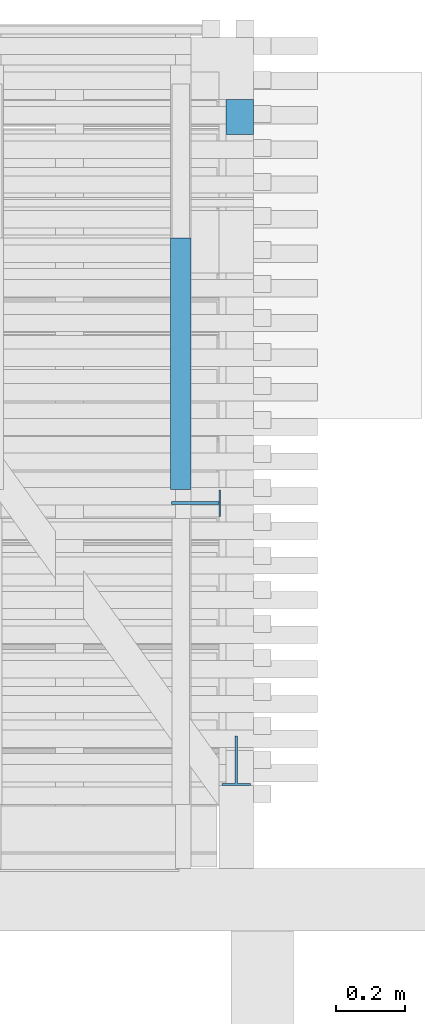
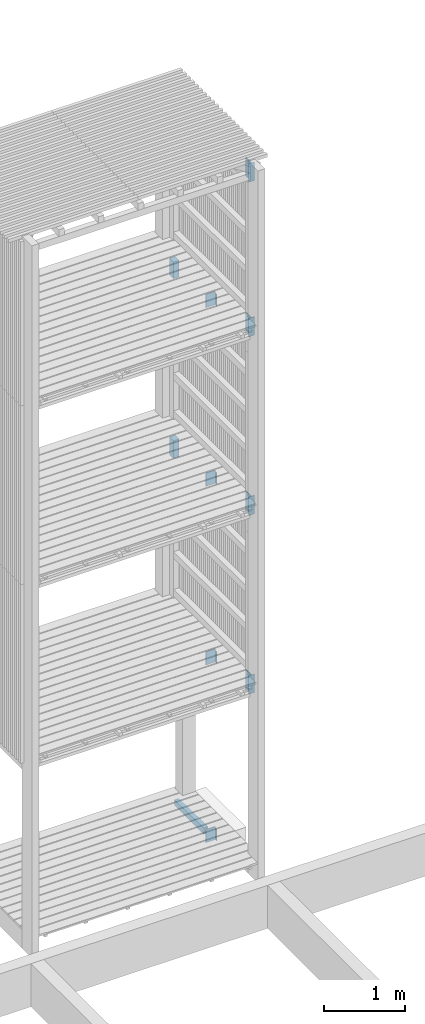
# One storey, part 180 of 182: 11 beams.
"""IFC2X3 building model written with IfcOpenShell, lengths in metres."""

from ifc_helpers import new_model, si_unit, frame, origin, place, context, project, spatial, faceted_brep, element, save


model = new_model("IFC2X3")

# Units and contexts
model_context = context("Model", 3, precision=1e-06, world=origin())
ifc_project = project(units=[si_unit("LENGTHUNIT", "METRE"), si_unit("PLANEANGLEUNIT", "RADIAN")], contexts=[model_context])

# Site, building, storey
site = spatial("IfcSite", under=ifc_project, CompositionType="ELEMENT")
building = spatial("IfcBuilding", under=site, CompositionType="ELEMENT")
storey = spatial("IfcBuildingStorey", under=building, Name="vs", CompositionType="ELEMENT", Elevation=-0.85)

# Beams
placement = place(None, origin())
beam_1_placement = place(placement, frame((36.21899999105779, 11.525077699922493, 7.839999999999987), z_axis=(-1.0, 0.0, 0.0), x_axis=(0.0, 0.0, 1.0)))
element("IfcBeam", 1, at=beam_1_placement, inside=storey, Name="Contre-usinage", context=model_context, shape_type="Brep", body=[
    faceted_brep([(0.200000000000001, 0.003999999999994, -0.065999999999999), (0.200000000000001, -0.004000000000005, -0.065999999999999), (0.175000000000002, -0.004000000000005, -0.065999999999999), (0.175000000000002, 0.003999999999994, -0.065999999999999), (2e-15, 0.003999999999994, -0.065999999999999), (0.175000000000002, 0.003999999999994, -0.065999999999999), (0.175000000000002, 0.037999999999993, -0.065999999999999), (2e-15, 0.037999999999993, -0.065999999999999), (2e-15, -0.038000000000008, -0.065999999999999), (0.175000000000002, -0.038000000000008, -0.065999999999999), (0.175000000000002, -0.004000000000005, -0.065999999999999), (2e-15, -0.004000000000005, -0.065999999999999), (2e-15, -0.004000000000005, 0.071000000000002), (2e-15, -0.004000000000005, -0.065999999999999), (0.175000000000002, -0.004000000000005, -0.065999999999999), (0.200000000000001, -0.004000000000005, -0.065999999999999), (0.200000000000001, -0.004000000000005, 0.071000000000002), (2e-15, 0.003999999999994, 0.071000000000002), (2e-15, -0.004000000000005, 0.071000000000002), (0.200000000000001, -0.004000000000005, 0.071000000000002), (0.200000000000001, 0.003999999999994, 0.071000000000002), (2e-15, 0.037999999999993, -0.071000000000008), (0.175000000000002, 0.037999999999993, -0.071000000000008), (0.175000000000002, -0.038000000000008, -0.071000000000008), (2e-15, -0.038000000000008, -0.071000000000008), (0.175000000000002, -0.038000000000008, -0.071000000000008), (0.175000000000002, 0.037999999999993, -0.071000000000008), (0.175000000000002, 0.037999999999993, -0.065999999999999), (0.175000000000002, 0.003999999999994, -0.065999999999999), (0.175000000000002, -0.004000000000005, -0.065999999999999), (0.175000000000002, -0.038000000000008, -0.065999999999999), (0.200000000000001, 0.003999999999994, -0.065999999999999), (0.175000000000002, 0.003999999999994, -0.065999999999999), (2e-15, 0.003999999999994, -0.065999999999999), (2e-15, 0.003999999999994, 0.071000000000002), (0.200000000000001, 0.003999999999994, 0.071000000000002), (0.200000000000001, 0.003999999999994, 0.071000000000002), (0.200000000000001, -0.004000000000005, 0.071000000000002), (0.200000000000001, -0.004000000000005, -0.065999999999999), (0.200000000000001, 0.003999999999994, -0.065999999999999), (2e-15, 0.037999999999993, -0.065999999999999), (0.175000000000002, 0.037999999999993, -0.065999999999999), (0.175000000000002, 0.037999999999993, -0.071000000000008), (2e-15, 0.037999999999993, -0.071000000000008), (2e-15, 0.037999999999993, -0.071000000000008), (2e-15, -0.038000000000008, -0.071000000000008), (2e-15, -0.038000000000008, -0.065999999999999), (2e-15, -0.004000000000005, -0.065999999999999), (2e-15, -0.004000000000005, 0.071000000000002), (2e-15, 0.003999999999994, 0.071000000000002), (2e-15, 0.003999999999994, -0.065999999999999), (2e-15, 0.037999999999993, -0.065999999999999), (2e-15, -0.038000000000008, -0.065999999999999), (2e-15, -0.038000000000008, -0.071000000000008), (0.175000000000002, -0.038000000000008, -0.071000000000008), (0.175000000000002, -0.038000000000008, -0.065999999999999)], [[[0, 1, 2, 3]], [[4, 5, 6, 7]], [[8, 9, 10, 11]], [[12, 13, 14, 15, 16]], [[17, 18, 19, 20]], [[21, 22, 23, 24]], [[25, 26, 27, 28, 29, 30]], [[31, 32, 33, 34, 35]], [[36, 37, 38, 39]], [[40, 41, 42, 43]], [[44, 45, 46, 47, 48, 49, 50, 51]], [[52, 53, 54, 55]]]),
])
beam_2_placement = place(placement, frame((36.17499999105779, 11.565077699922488, -0.091949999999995), z_axis=(0.0, 0.0, 1.0), x_axis=(0.0, 1.0, 0.0)))
element("IfcBeam", 2, at=beam_2_placement, inside=storey, Name="Solive", context=model_context, shape_type="Brep", body=[
    faceted_brep([(0.0, -0.03, -0.04805), (0.0, 0.030000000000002, -0.04805), (0.725000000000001, 0.030000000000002, -0.04805), (0.725000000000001, -0.03, -0.04805), (0.725000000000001, -0.03, 0.033549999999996), (0.0, -0.03, 0.048049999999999), (0.0, -0.03, -0.04805), (0.725000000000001, -0.03, -0.04805), (0.0, -0.03, 0.048049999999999), (0.725000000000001, -0.03, 0.033549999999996), (0.725000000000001, 0.030000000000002, 0.033549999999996), (0.0, 0.030000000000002, 0.048049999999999), (0.0, -0.03, 0.048049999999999), (0.0, 0.030000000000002, 0.048049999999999), (0.0, 0.030000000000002, -0.04805), (0.0, -0.03, -0.04805), (0.0, 0.030000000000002, -0.04805), (0.0, 0.030000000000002, 0.048049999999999), (0.725000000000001, 0.030000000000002, 0.033549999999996), (0.725000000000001, 0.030000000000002, -0.04805), (0.725000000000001, -0.03, 0.033549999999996), (0.725000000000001, -0.03, -0.04805), (0.725000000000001, 0.030000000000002, -0.04805), (0.725000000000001, 0.030000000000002, 0.033549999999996)], [[[0, 1, 2, 3]], [[4, 5, 6, 7]], [[8, 9, 10, 11]], [[12, 13, 14, 15]], [[16, 17, 18, 19]], [[20, 21, 22, 23]]]),
])
beam_3_placement = place(placement, frame((36.21899999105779, 11.525077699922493, -0.243899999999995), z_axis=(-1.0, 0.0, 0.0), x_axis=(0.0, 0.0, 1.0)))
element("IfcBeam", 3, at=beam_3_placement, inside=storey, Name="Contre-usinage", context=model_context, shape_type="Brep", body=[
    faceted_brep([(0.2, 0.003999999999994, -0.065999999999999), (0.2, -0.004000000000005, -0.065999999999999), (0.175, -0.004000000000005, -0.065999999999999), (0.175, 0.003999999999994, -0.065999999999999), (0.0, 0.003999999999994, -0.065999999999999), (0.175, 0.003999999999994, -0.065999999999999), (0.175, 0.037999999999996, -0.065999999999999), (0.0, 0.037999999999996, -0.065999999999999), (0.0, -0.038000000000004, -0.065999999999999), (0.175, -0.038000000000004, -0.065999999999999), (0.175, -0.004000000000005, -0.065999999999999), (0.0, -0.004000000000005, -0.065999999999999), (0.0, -0.004000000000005, 0.071000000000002), (0.0, -0.004000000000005, -0.065999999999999), (0.175, -0.004000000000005, -0.065999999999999), (0.2, -0.004000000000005, -0.065999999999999), (0.2, -0.004000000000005, 0.071000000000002), (0.0, 0.003999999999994, 0.071000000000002), (0.0, -0.004000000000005, 0.071000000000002), (0.2, -0.004000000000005, 0.071000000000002), (0.2, 0.003999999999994, 0.071000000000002), (0.0, 0.037999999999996, -0.071000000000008), (0.175, 0.037999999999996, -0.071000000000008), (0.175, -0.038000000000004, -0.071000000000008), (0.0, -0.038000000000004, -0.071000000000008), (0.2, 0.003999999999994, 0.071000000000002), (0.2, -0.004000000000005, 0.071000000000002), (0.2, -0.004000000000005, -0.065999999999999), (0.2, 0.003999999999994, -0.065999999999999), (0.2, 0.003999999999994, -0.065999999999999), (0.175, 0.003999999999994, -0.065999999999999), (0.0, 0.003999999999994, -0.065999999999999), (0.0, 0.003999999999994, 0.071000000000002), (0.2, 0.003999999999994, 0.071000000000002), (0.175, -0.038000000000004, -0.071000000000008), (0.175, 0.037999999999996, -0.071000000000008), (0.175, 0.037999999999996, -0.065999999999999), (0.175, 0.003999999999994, -0.065999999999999), (0.175, -0.004000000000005, -0.065999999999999), (0.175, -0.038000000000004, -0.065999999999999), (0.0, 0.037999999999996, -0.071000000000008), (0.0, -0.038000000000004, -0.071000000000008), (0.0, -0.038000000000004, -0.065999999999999), (0.0, -0.004000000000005, -0.065999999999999), (0.0, -0.004000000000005, 0.071000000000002), (0.0, 0.003999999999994, 0.071000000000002), (0.0, 0.003999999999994, -0.065999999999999), (0.0, 0.037999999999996, -0.065999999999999), (0.0, 0.037999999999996, -0.071000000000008), (0.0, 0.037999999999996, -0.065999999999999), (0.175, 0.037999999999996, -0.065999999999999), (0.175, 0.037999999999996, -0.071000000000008), (0.0, -0.038000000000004, -0.065999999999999), (0.0, -0.038000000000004, -0.071000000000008), (0.175, -0.038000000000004, -0.071000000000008), (0.175, -0.038000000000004, -0.065999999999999)], [[[0, 1, 2, 3]], [[4, 5, 6, 7]], [[8, 9, 10, 11]], [[12, 13, 14, 15, 16]], [[17, 18, 19, 20]], [[21, 22, 23, 24]], [[25, 26, 27, 28]], [[29, 30, 31, 32, 33]], [[34, 35, 36, 37, 38, 39]], [[40, 41, 42, 43, 44, 45, 46, 47]], [[48, 49, 50, 51]], [[52, 53, 54, 55]]]),
])
beam_4_placement = place(placement, frame((36.344999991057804, 12.640077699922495, 4.85796194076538), z_axis=(0.0, -1.0, 0.0), x_axis=(0.0, 0.0, 1.0)))
element("IfcBeam", 4, at=beam_4_placement, inside=storey, Name="Support bardage", context=model_context, shape_type="Brep", body=[
    faceted_brep([(0.267038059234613, -0.039999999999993, -0.05), (0.267038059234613, 0.04000000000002, -0.05), (0.267038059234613, 0.04000000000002, 0.050000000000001), (0.267038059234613, -0.039999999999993, 0.050000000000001), (0.267038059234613, -0.039999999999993, -0.05), (0.267038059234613, -0.039999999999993, 0.050000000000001), (0.0, -0.039999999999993, 0.050000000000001), (0.0, -0.039999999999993, -0.05), (0.267038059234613, 0.04000000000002, -0.05), (0.267038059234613, -0.039999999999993, -0.05), (0.0, -0.039999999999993, -0.05), (0.0, 0.04000000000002, -0.05), (0.0, -0.039999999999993, 0.050000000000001), (0.267038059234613, -0.039999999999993, 0.050000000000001), (0.267038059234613, 0.04000000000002, 0.050000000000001), (0.0, 0.04000000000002, 0.050000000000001), (0.0, 0.04000000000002, 0.050000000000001), (0.267038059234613, 0.04000000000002, 0.050000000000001), (0.267038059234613, 0.04000000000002, -0.05), (0.0, 0.04000000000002, -0.05), (0.0, -0.039999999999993, 0.050000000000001), (0.0, 0.04000000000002, 0.050000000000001), (0.0, 0.04000000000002, -0.05), (0.0, -0.039999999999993, -0.05)], [[[0, 1, 2, 3]], [[4, 5, 6, 7]], [[8, 9, 10, 11]], [[12, 13, 14, 15]], [[16, 17, 18, 19]], [[20, 21, 22, 23]]]),
])
beam_5_placement = place(placement, frame((36.29399999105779, 10.781077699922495, 2.579999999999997), z_axis=(0.0, 0.0, 1.0), x_axis=(1.0, 0.0, 0.0)))
element("IfcBeam", 5, at=beam_5_placement, inside=storey, Name="Contre-usinage", context=model_context, shape_type="Brep", body=[
    faceted_brep([(0.037000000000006, -0.065999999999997, -0.14), (0.037000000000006, 0.071, -0.14), (0.045000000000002, 0.071, -0.14), (0.045000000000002, -0.065999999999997, -0.14), (0.082000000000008, -0.066000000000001, -0.14), (0.082000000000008, -0.071, -0.14), (0.0, -0.071, -0.14), (0.0, -0.066000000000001, -0.14), (0.045000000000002, 0.071, -0.14), (0.037000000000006, 0.071, -0.14), (0.037000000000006, 0.071, 0.14), (0.045000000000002, 0.071, 0.14), (0.045000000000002, -0.066000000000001, 0.14), (0.045000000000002, -0.065999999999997, -0.14), (0.045000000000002, 0.071, -0.14), (0.045000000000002, 0.071, 0.14), (0.082000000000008, -0.066000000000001, -0.14), (0.045000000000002, -0.065999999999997, -0.14), (0.045000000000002, -0.066000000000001, 0.14), (0.082000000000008, -0.066000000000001, 0.14), (0.082000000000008, -0.071, -0.14), (0.082000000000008, -0.066000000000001, -0.14), (0.082000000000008, -0.066000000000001, 0.14), (0.082000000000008, -0.071, 0.14), (0.0, -0.071, -0.14), (0.082000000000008, -0.071, -0.14), (0.082000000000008, -0.071, 0.14), (0.0, -0.071, 0.14), (0.0, -0.066000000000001, -0.14), (0.0, -0.071, -0.14), (0.0, -0.071, 0.14), (0.0, -0.066000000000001, 0.14), (0.037000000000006, -0.065999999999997, -0.14), (0.0, -0.066000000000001, -0.14), (0.0, -0.066000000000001, 0.14), (0.037000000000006, -0.066000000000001, 0.14), (0.037000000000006, 0.071, 0.14), (0.037000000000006, 0.071, -0.14), (0.037000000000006, -0.065999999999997, -0.14), (0.037000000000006, -0.066000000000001, 0.14), (0.082000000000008, -0.066000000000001, 0.14), (0.045000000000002, -0.066000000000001, 0.14), (0.045000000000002, 0.071, 0.14), (0.037000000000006, 0.071, 0.14), (0.037000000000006, -0.066000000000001, 0.14), (0.0, -0.066000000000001, 0.14), (0.0, -0.071, 0.14), (0.082000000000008, -0.071, 0.14)], [[[0, 1, 2, 3, 4, 5, 6, 7]], [[8, 9, 10, 11]], [[12, 13, 14, 15]], [[16, 17, 18, 19]], [[20, 21, 22, 23]], [[24, 25, 26, 27]], [[28, 29, 30, 31]], [[32, 33, 34, 35]], [[36, 37, 38, 39]], [[40, 41, 42, 43, 44, 45, 46, 47]]]),
])
beam_6_placement = place(placement, frame((36.21899999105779, 11.525077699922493, 2.439999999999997), z_axis=(-1.0, 0.0, 0.0), x_axis=(0.0, 0.0, 1.0)))
element("IfcBeam", 6, at=beam_6_placement, inside=storey, Name="Contre-usinage", context=model_context, shape_type="Brep", body=[
    faceted_brep([(0.2, 0.003999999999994, -0.065999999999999), (0.2, -0.004000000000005, -0.065999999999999), (0.175, -0.004000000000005, -0.065999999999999), (0.175, 0.003999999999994, -0.065999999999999), (0.0, 0.003999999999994, -0.065999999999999), (0.175, 0.003999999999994, -0.065999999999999), (0.175, 0.037999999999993, -0.065999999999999), (0.0, 0.037999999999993, -0.065999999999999), (0.0, -0.038000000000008, -0.065999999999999), (0.175, -0.038000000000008, -0.065999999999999), (0.175, -0.004000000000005, -0.065999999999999), (0.0, -0.004000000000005, -0.065999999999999), (0.0, -0.004000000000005, 0.071000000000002), (0.0, -0.004000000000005, -0.065999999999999), (0.175, -0.004000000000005, -0.065999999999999), (0.2, -0.004000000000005, -0.065999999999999), (0.2, -0.004000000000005, 0.071000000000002), (0.0, 0.003999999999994, 0.071000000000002), (0.0, -0.004000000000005, 0.071000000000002), (0.2, -0.004000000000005, 0.071000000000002), (0.2, 0.003999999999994, 0.071000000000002), (0.0, 0.037999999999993, -0.070999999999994), (0.175, 0.037999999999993, -0.070999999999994), (0.175, -0.038000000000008, -0.070999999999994), (0.0, -0.038000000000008, -0.070999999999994), (0.175, -0.038000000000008, -0.070999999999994), (0.175, 0.037999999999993, -0.070999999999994), (0.175, 0.037999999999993, -0.065999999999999), (0.175, 0.003999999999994, -0.065999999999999), (0.175, -0.004000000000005, -0.065999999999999), (0.175, -0.038000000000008, -0.065999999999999), (0.2, 0.003999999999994, -0.065999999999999), (0.175, 0.003999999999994, -0.065999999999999), (0.0, 0.003999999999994, -0.065999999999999), (0.0, 0.003999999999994, 0.071000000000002), (0.2, 0.003999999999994, 0.071000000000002), (0.2, 0.003999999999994, 0.071000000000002), (0.2, -0.004000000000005, 0.071000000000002), (0.2, -0.004000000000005, -0.065999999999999), (0.2, 0.003999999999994, -0.065999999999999), (0.0, 0.037999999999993, -0.065999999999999), (0.175, 0.037999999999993, -0.065999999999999), (0.175, 0.037999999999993, -0.070999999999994), (0.0, 0.037999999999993, -0.070999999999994), (0.0, 0.037999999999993, -0.070999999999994), (0.0, -0.038000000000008, -0.070999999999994), (0.0, -0.038000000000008, -0.065999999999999), (0.0, -0.004000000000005, -0.065999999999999), (0.0, -0.004000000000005, 0.071000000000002), (0.0, 0.003999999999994, 0.071000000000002), (0.0, 0.003999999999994, -0.065999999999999), (0.0, 0.037999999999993, -0.065999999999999), (0.0, -0.038000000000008, -0.065999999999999), (0.0, -0.038000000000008, -0.070999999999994), (0.175, -0.038000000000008, -0.070999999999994), (0.175, -0.038000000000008, -0.065999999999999)], [[[0, 1, 2, 3]], [[4, 5, 6, 7]], [[8, 9, 10, 11]], [[12, 13, 14, 15, 16]], [[17, 18, 19, 20]], [[21, 22, 23, 24]], [[25, 26, 27, 28, 29, 30]], [[31, 32, 33, 34, 35]], [[36, 37, 38, 39]], [[40, 41, 42, 43]], [[44, 45, 46, 47, 48, 49, 50, 51]], [[52, 53, 54, 55]]]),
])
beam_7_placement = place(placement, frame((36.29399999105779, 10.781077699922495, 7.979999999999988), z_axis=(0.0, 0.0, 1.0), x_axis=(1.0, 0.0, 0.0)))
element("IfcBeam", 7, at=beam_7_placement, inside=storey, Name="Contre-usinage", context=model_context, shape_type="Brep", body=[
    faceted_brep([(0.037000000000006, -0.065999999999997, -0.14), (0.037000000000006, 0.071, -0.14), (0.045000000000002, 0.071, -0.14), (0.045000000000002, -0.065999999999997, -0.14), (0.082000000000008, -0.066000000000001, -0.14), (0.082000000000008, -0.071, -0.14), (0.0, -0.071, -0.14), (0.0, -0.066000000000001, -0.14), (0.045000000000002, 0.071, -0.14), (0.037000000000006, 0.071, -0.14), (0.037000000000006, 0.071, 0.140000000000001), (0.045000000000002, 0.071, 0.140000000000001), (0.045000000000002, -0.066000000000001, 0.140000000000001), (0.045000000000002, -0.065999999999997, -0.14), (0.045000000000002, 0.071, -0.14), (0.045000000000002, 0.071, 0.140000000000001), (0.082000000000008, -0.066000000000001, -0.14), (0.045000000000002, -0.065999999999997, -0.14), (0.045000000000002, -0.066000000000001, 0.140000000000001), (0.082000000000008, -0.066000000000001, 0.140000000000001), (0.082000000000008, -0.071, -0.14), (0.082000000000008, -0.066000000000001, -0.14), (0.082000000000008, -0.066000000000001, 0.140000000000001), (0.082000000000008, -0.071, 0.140000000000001), (0.0, -0.071, -0.14), (0.082000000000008, -0.071, -0.14), (0.082000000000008, -0.071, 0.140000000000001), (0.0, -0.071, 0.140000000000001), (0.0, -0.066000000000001, -0.14), (0.0, -0.071, -0.14), (0.0, -0.071, 0.140000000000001), (0.0, -0.066000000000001, 0.140000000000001), (0.037000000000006, -0.065999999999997, -0.14), (0.0, -0.066000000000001, -0.14), (0.0, -0.066000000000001, 0.140000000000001), (0.037000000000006, -0.066000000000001, 0.140000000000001), (0.037000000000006, 0.071, 0.140000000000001), (0.037000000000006, 0.071, -0.14), (0.037000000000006, -0.065999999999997, -0.14), (0.037000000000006, -0.066000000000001, 0.140000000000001), (0.082000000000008, -0.066000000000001, 0.140000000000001), (0.045000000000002, -0.066000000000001, 0.140000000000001), (0.045000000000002, 0.071, 0.140000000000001), (0.037000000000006, 0.071, 0.140000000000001), (0.037000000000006, -0.066000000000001, 0.140000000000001), (0.0, -0.066000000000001, 0.140000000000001), (0.0, -0.071, 0.140000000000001), (0.082000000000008, -0.071, 0.140000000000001)], [[[0, 1, 2, 3, 4, 5, 6, 7]], [[8, 9, 10, 11]], [[12, 13, 14, 15]], [[16, 17, 18, 19]], [[20, 21, 22, 23]], [[24, 25, 26, 27]], [[28, 29, 30, 31]], [[32, 33, 34, 35]], [[36, 37, 38, 39]], [[40, 41, 42, 43, 44, 45, 46, 47]]]),
])
beam_8_placement = place(placement, frame((36.344999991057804, 12.640077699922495, 7.576188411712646), z_axis=(0.0, -1.0, 0.0), x_axis=(0.0, 0.0, 1.0)))
element("IfcBeam", 8, at=beam_8_placement, inside=storey, Name="Support bardage", context=model_context, shape_type="Brep", body=[
    faceted_brep([(0.248811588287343, -0.039999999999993, -0.05), (0.248811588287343, 0.04000000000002, -0.05), (0.248811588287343, 0.04000000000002, 0.050000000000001), (0.248811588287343, -0.039999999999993, 0.050000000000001), (0.248811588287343, -0.039999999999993, -0.05), (0.248811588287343, -0.039999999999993, 0.050000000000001), (0.0, -0.039999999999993, 0.050000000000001), (0.0, -0.039999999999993, -0.05), (0.0, -0.039999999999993, 0.050000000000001), (0.248811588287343, -0.039999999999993, 0.050000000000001), (0.248811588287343, 0.04000000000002, 0.050000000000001), (0.0, 0.04000000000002, 0.050000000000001), (0.0, 0.04000000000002, 0.050000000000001), (0.248811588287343, 0.04000000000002, 0.050000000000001), (0.248811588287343, 0.04000000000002, -0.05), (0.0, 0.04000000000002, -0.05), (0.0, 0.04000000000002, -0.05), (0.248811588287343, 0.04000000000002, -0.05), (0.248811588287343, -0.039999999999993, -0.05), (0.0, -0.039999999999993, -0.05), (0.0, 0.04000000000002, 0.050000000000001), (0.0, 0.04000000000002, -0.05), (0.0, -0.039999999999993, -0.05), (0.0, -0.039999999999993, 0.050000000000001)], [[[0, 1, 2, 3]], [[4, 5, 6, 7]], [[8, 9, 10, 11]], [[12, 13, 14, 15]], [[16, 17, 18, 19]], [[20, 21, 22, 23]]]),
])
beam_9_placement = place(placement, frame((36.21899999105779, 11.525077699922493, 5.139999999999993), z_axis=(-1.0, 0.0, 0.0), x_axis=(0.0, 0.0, 1.0)))
element("IfcBeam", 9, at=beam_9_placement, inside=storey, Name="Contre-usinage", context=model_context, shape_type="Brep", body=[
    faceted_brep([(0.2, 0.003999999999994, -0.065999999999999), (0.2, -0.004000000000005, -0.065999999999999), (0.174999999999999, -0.004000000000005, -0.065999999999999), (0.174999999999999, 0.003999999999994, -0.065999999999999), (0.0, 0.003999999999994, -0.065999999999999), (0.174999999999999, 0.003999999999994, -0.065999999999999), (0.174999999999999, 0.037999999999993, -0.065999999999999), (0.0, 0.037999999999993, -0.065999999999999), (0.0, -0.038000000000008, -0.065999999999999), (0.174999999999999, -0.038000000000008, -0.065999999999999), (0.174999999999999, -0.004000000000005, -0.065999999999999), (0.0, -0.004000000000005, -0.065999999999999), (0.0, -0.004000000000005, 0.071000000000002), (0.0, -0.004000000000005, -0.065999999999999), (0.174999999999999, -0.004000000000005, -0.065999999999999), (0.2, -0.004000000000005, -0.065999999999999), (0.2, -0.004000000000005, 0.071000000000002), (0.0, 0.003999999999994, 0.071000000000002), (0.0, -0.004000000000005, 0.071000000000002), (0.2, -0.004000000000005, 0.071000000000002), (0.2, 0.003999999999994, 0.071000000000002), (0.0, 0.037999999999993, -0.070999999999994), (0.174999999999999, 0.037999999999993, -0.070999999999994), (0.174999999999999, -0.038000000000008, -0.070999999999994), (0.0, -0.038000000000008, -0.070999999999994), (0.174999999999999, -0.038000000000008, -0.070999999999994), (0.174999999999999, 0.037999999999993, -0.070999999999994), (0.174999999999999, 0.037999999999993, -0.065999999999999), (0.174999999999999, 0.003999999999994, -0.065999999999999), (0.174999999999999, -0.004000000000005, -0.065999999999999), (0.174999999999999, -0.038000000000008, -0.065999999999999), (0.2, 0.003999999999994, -0.065999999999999), (0.174999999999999, 0.003999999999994, -0.065999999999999), (0.0, 0.003999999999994, -0.065999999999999), (0.0, 0.003999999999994, 0.071000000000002), (0.2, 0.003999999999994, 0.071000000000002), (0.2, 0.003999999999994, 0.071000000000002), (0.2, -0.004000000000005, 0.071000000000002), (0.2, -0.004000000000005, -0.065999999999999), (0.2, 0.003999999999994, -0.065999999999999), (0.0, 0.037999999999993, -0.065999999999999), (0.174999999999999, 0.037999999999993, -0.065999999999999), (0.174999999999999, 0.037999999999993, -0.070999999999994), (0.0, 0.037999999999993, -0.070999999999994), (0.0, 0.037999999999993, -0.070999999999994), (0.0, -0.038000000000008, -0.070999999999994), (0.0, -0.038000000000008, -0.065999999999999), (0.0, -0.004000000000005, -0.065999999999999), (0.0, -0.004000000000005, 0.071000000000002), (0.0, 0.003999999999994, 0.071000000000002), (0.0, 0.003999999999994, -0.065999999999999), (0.0, 0.037999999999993, -0.065999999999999), (0.0, -0.038000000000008, -0.065999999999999), (0.0, -0.038000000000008, -0.070999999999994), (0.174999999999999, -0.038000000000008, -0.070999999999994), (0.174999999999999, -0.038000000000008, -0.065999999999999)], [[[0, 1, 2, 3]], [[4, 5, 6, 7]], [[8, 9, 10, 11]], [[12, 13, 14, 15, 16]], [[17, 18, 19, 20]], [[21, 22, 23, 24]], [[25, 26, 27, 28, 29, 30]], [[31, 32, 33, 34, 35]], [[36, 37, 38, 39]], [[40, 41, 42, 43]], [[44, 45, 46, 47, 48, 49, 50, 51]], [[52, 53, 54, 55]]]),
])
beam_10_placement = place(placement, frame((36.29399999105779, 10.781077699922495, 10.314999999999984), z_axis=(0.0, 0.0, 1.0), x_axis=(1.0, 0.0, 0.0)))
element("IfcBeam", 10, at=beam_10_placement, inside=storey, Name="Contre-usinage", context=model_context, shape_type="Brep", body=[
    faceted_brep([(0.037000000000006, -0.065999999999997, -0.140000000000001), (0.037000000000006, 0.071, -0.140000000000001), (0.045000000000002, 0.071, -0.140000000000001), (0.045000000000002, -0.065999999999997, -0.140000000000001), (0.082000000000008, -0.066000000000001, -0.140000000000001), (0.082000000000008, -0.071, -0.140000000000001), (0.0, -0.071, -0.140000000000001), (0.0, -0.066000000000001, -0.140000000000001), (0.045000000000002, 0.071, -0.140000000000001), (0.037000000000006, 0.071, -0.140000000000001), (0.037000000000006, 0.071, 0.140000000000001), (0.045000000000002, 0.071, 0.140000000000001), (0.045000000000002, -0.066000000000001, 0.140000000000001), (0.045000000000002, -0.065999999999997, -0.140000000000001), (0.045000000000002, 0.071, -0.140000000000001), (0.045000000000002, 0.071, 0.140000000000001), (0.082000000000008, -0.066000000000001, -0.140000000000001), (0.045000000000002, -0.065999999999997, -0.140000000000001), (0.045000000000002, -0.066000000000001, 0.140000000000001), (0.082000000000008, -0.066000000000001, 0.140000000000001), (0.082000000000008, -0.071, -0.140000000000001), (0.082000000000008, -0.066000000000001, -0.140000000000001), (0.082000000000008, -0.066000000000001, 0.140000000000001), (0.082000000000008, -0.071, 0.140000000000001), (0.0, -0.071, -0.140000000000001), (0.082000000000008, -0.071, -0.140000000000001), (0.082000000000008, -0.071, 0.140000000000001), (0.0, -0.071, 0.140000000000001), (0.0, -0.066000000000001, -0.140000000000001), (0.0, -0.071, -0.140000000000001), (0.0, -0.071, 0.140000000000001), (0.0, -0.066000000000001, 0.140000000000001), (0.037000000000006, -0.065999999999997, -0.140000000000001), (0.0, -0.066000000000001, -0.140000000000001), (0.0, -0.066000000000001, 0.140000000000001), (0.037000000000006, -0.066000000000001, 0.140000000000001), (0.037000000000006, 0.071, 0.140000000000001), (0.037000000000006, 0.071, -0.140000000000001), (0.037000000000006, -0.065999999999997, -0.140000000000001), (0.037000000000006, -0.066000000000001, 0.140000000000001), (0.082000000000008, -0.066000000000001, 0.140000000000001), (0.045000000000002, -0.066000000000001, 0.140000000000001), (0.045000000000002, 0.071, 0.140000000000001), (0.037000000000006, 0.071, 0.140000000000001), (0.037000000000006, -0.066000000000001, 0.140000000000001), (0.0, -0.066000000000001, 0.140000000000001), (0.0, -0.071, 0.140000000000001), (0.082000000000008, -0.071, 0.140000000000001)], [[[0, 1, 2, 3, 4, 5, 6, 7]], [[8, 9, 10, 11]], [[12, 13, 14, 15]], [[16, 17, 18, 19]], [[20, 21, 22, 23]], [[24, 25, 26, 27]], [[28, 29, 30, 31]], [[32, 33, 34, 35]], [[36, 37, 38, 39]], [[40, 41, 42, 43, 44, 45, 46, 47]]]),
])
beam_11_placement = place(placement, frame((36.29399999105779, 10.781077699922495, 5.279999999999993), z_axis=(0.0, 0.0, 1.0), x_axis=(1.0, 0.0, 0.0)))
element("IfcBeam", 11, at=beam_11_placement, inside=storey, Name="Contre-usinage", context=model_context, shape_type="Brep", body=[
    faceted_brep([(0.037000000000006, -0.065999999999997, -0.140000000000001), (0.037000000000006, 0.071, -0.140000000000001), (0.045000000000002, 0.071, -0.140000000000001), (0.045000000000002, -0.065999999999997, -0.140000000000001), (0.082000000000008, -0.066000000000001, -0.140000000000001), (0.082000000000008, -0.071, -0.140000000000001), (0.0, -0.071, -0.140000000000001), (0.0, -0.066000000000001, -0.140000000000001), (0.045000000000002, 0.071, -0.140000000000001), (0.037000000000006, 0.071, -0.140000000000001), (0.037000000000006, 0.071, 0.140000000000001), (0.045000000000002, 0.071, 0.140000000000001), (0.045000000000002, -0.066000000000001, 0.140000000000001), (0.045000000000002, -0.065999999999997, -0.140000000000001), (0.045000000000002, 0.071, -0.140000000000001), (0.045000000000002, 0.071, 0.140000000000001), (0.082000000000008, -0.066000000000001, -0.140000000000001), (0.045000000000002, -0.065999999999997, -0.140000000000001), (0.045000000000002, -0.066000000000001, 0.140000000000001), (0.082000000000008, -0.066000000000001, 0.140000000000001), (0.082000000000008, -0.071, -0.140000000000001), (0.082000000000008, -0.066000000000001, -0.140000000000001), (0.082000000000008, -0.066000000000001, 0.140000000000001), (0.082000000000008, -0.071, 0.140000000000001), (0.0, -0.071, -0.140000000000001), (0.082000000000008, -0.071, -0.140000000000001), (0.082000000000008, -0.071, 0.140000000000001), (0.0, -0.071, 0.140000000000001), (0.0, -0.066000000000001, -0.140000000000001), (0.0, -0.071, -0.140000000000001), (0.0, -0.071, 0.140000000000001), (0.0, -0.066000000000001, 0.140000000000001), (0.037000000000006, -0.065999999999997, -0.140000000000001), (0.0, -0.066000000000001, -0.140000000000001), (0.0, -0.066000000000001, 0.140000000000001), (0.037000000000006, -0.066000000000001, 0.140000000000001), (0.037000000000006, 0.071, 0.140000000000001), (0.037000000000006, 0.071, -0.140000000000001), (0.037000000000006, -0.065999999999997, -0.140000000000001), (0.037000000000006, -0.066000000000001, 0.140000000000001), (0.082000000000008, -0.066000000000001, 0.140000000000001), (0.045000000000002, -0.066000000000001, 0.140000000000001), (0.045000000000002, 0.071, 0.140000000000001), (0.037000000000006, 0.071, 0.140000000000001), (0.037000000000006, -0.066000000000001, 0.140000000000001), (0.0, -0.066000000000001, 0.140000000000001), (0.0, -0.071, 0.140000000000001), (0.082000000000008, -0.071, 0.140000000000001)], [[[0, 1, 2, 3, 4, 5, 6, 7]], [[8, 9, 10, 11]], [[12, 13, 14, 15]], [[16, 17, 18, 19]], [[20, 21, 22, 23]], [[24, 25, 26, 27]], [[28, 29, 30, 31]], [[32, 33, 34, 35]], [[36, 37, 38, 39]], [[40, 41, 42, 43, 44, 45, 46, 47]]]),
])

save(model, "model.ifc")
